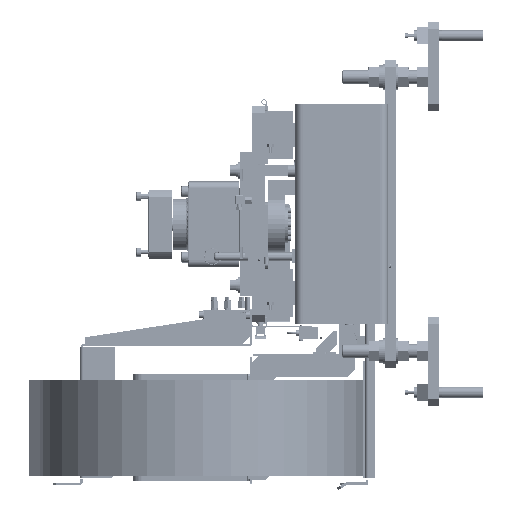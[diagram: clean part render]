
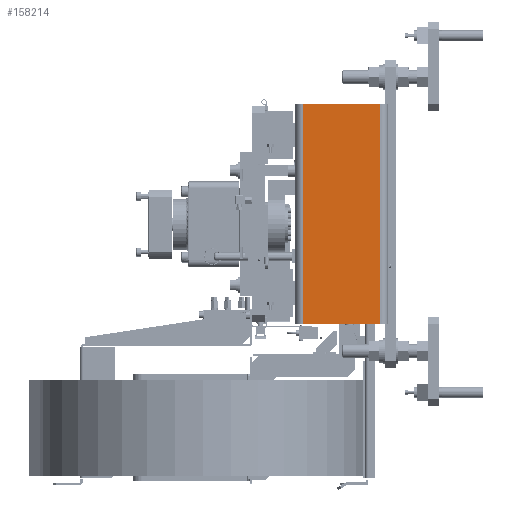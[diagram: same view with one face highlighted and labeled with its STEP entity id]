
A CAD part, left-side view. The second image highlights one B-rep face of the part: STEP entity #158214.
In plain terms, the highlighted planar face has unit normal (-1, 0, 0).
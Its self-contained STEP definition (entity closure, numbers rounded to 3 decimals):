
#7654 = ORIENTED_EDGE ( 'NONE', *, *, #186068, .F. ) ;
#10543 = CARTESIAN_POINT ( 'NONE',  ( -2497., -7.4, 160. ) ) ;
#11240 = VECTOR ( 'NONE', #96000, 1000. ) ;
#11853 = CARTESIAN_POINT ( 'NONE',  ( -2497., 106., 160. ) ) ;
#16886 = FACE_OUTER_BOUND ( 'NONE', #68554, .T. ) ;
#18235 = VECTOR ( 'NONE', #134334, 1000. ) ;
#20342 = VECTOR ( 'NONE', #109396, 1000. ) ;
#39293 = DIRECTION ( 'NONE',  ( 0., 1., 0. ) ) ;
#45135 = VERTEX_POINT ( 'NONE', #79041 ) ;
#48919 = LINE ( 'NONE', #111257, #11240 ) ;
#57710 = ORIENTED_EDGE ( 'NONE', *, *, #169700, .F. ) ;
#68554 = EDGE_LOOP ( 'NONE', ( #159218, #7654, #57710, #183689 ) ) ;
#74013 = EDGE_CURVE ( 'NONE', #99956, #196793, #79773, .T. ) ;
#79041 = CARTESIAN_POINT ( 'NONE',  ( -2497., -7.4, 160. ) ) ;
#79773 = LINE ( 'NONE', #142083, #20342 ) ;
#84404 = CARTESIAN_POINT ( 'NONE',  ( -2497., -7.4, 160. ) ) ;
#88918 = VERTEX_POINT ( 'NONE', #98077 ) ;
#91856 = CARTESIAN_POINT ( 'NONE',  ( -2497., -7.4, -160. ) ) ;
#94864 = LINE ( 'NONE', #91856, #131332 ) ;
#96000 = DIRECTION ( 'NONE',  ( 0., 0., -1. ) ) ;
#98077 = CARTESIAN_POINT ( 'NONE',  ( -2497., -7.4, -160. ) ) ;
#99956 = VERTEX_POINT ( 'NONE', #11853 ) ;
#101753 = DIRECTION ( 'NONE',  ( 1., 0., 0. ) ) ;
#109396 = DIRECTION ( 'NONE',  ( 0., 0., -1. ) ) ;
#111257 = CARTESIAN_POINT ( 'NONE',  ( -2497., -7.4, 160. ) ) ;
#112000 = PLANE ( 'NONE',  #186552 ) ;
#120155 = EDGE_CURVE ( 'NONE', #196793, #88918, #94864, .T. ) ;
#123014 = LINE ( 'NONE', #10543, #18235 ) ;
#131332 = VECTOR ( 'NONE', #157179, 1000. ) ;
#134334 = DIRECTION ( 'NONE',  ( 0., -1., 0. ) ) ;
#142083 = CARTESIAN_POINT ( 'NONE',  ( -2497., 106., 160. ) ) ;
#157179 = DIRECTION ( 'NONE',  ( 0., -1., 0. ) ) ;
#158214 = ADVANCED_FACE ( 'NONE', ( #16886 ), #112000, .F. ) ;
#159218 = ORIENTED_EDGE ( 'NONE', *, *, #120155, .T. ) ;
#169486 = CARTESIAN_POINT ( 'NONE',  ( -2497., 106., -160. ) ) ;
#169700 = EDGE_CURVE ( 'NONE', #99956, #45135, #123014, .T. ) ;
#183689 = ORIENTED_EDGE ( 'NONE', *, *, #74013, .T. ) ;
#186068 = EDGE_CURVE ( 'NONE', #45135, #88918, #48919, .T. ) ;
#186552 = AXIS2_PLACEMENT_3D ( 'NONE', #84404, #101753, #39293 ) ;
#196793 = VERTEX_POINT ( 'NONE', #169486 ) ;
